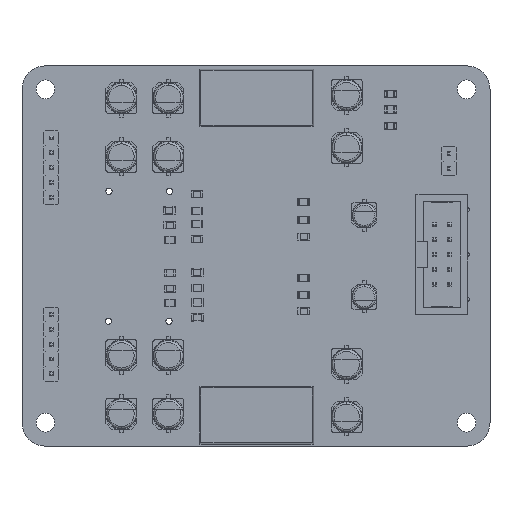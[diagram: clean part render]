
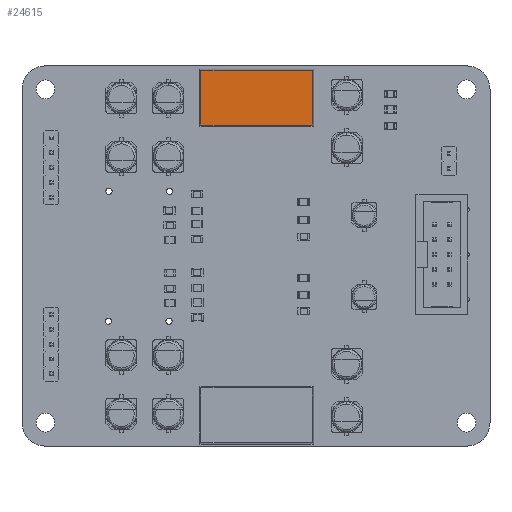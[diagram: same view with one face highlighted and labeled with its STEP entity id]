
A CAD part, top view. The second image highlights one B-rep face of the part: STEP entity #24615.
In plain terms, the highlighted planar face has unit normal (0, 0, 1) as drawn and (0, -1, 0) by its records, which use the part's own axes.
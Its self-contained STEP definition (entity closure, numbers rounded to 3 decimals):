
#23976 = PLANE('',#23977);
#23977 = AXIS2_PLACEMENT_3D('',#23978,#23979,#23980);
#23978 = CARTESIAN_POINT('',(11.052,0.,-4.9));
#23979 = DIRECTION('',(0.,-0.017,-1.));
#23980 = DIRECTION('',(-1.,0.,0.));
#24004 = PLANE('',#24005);
#24005 = AXIS2_PLACEMENT_3D('',#24006,#24007,#24008);
#24006 = CARTESIAN_POINT('',(-9.75,0.,-6.202));
#24007 = DIRECTION('',(-1.,-0.017,0.));
#24008 = DIRECTION('',(0.,0.,1.));
#24032 = PLANE('',#24033);
#24033 = AXIS2_PLACEMENT_3D('',#24034,#24035,#24036);
#24034 = CARTESIAN_POINT('',(-11.052,0.,4.9));
#24035 = DIRECTION('',(0.,-0.017,1.));
#24036 = DIRECTION('',(1.,0.,0.));
#24208 = VERTEX_POINT('',#24209);
#24209 = CARTESIAN_POINT('',(9.532,-12.5,-4.682));
#24223 = PLANE('',#24224);
#24224 = AXIS2_PLACEMENT_3D('',#24225,#24226,#24227);
#24225 = CARTESIAN_POINT('',(9.75,0.,6.202));
#24226 = DIRECTION('',(1.,-0.017,0.));
#24227 = DIRECTION('',(0.,0.,-1.));
#24235 = EDGE_CURVE('',#24236,#24208,#24238,.T.);
#24236 = VERTEX_POINT('',#24237);
#24237 = CARTESIAN_POINT('',(-9.532,-12.5,-4.682));
#24238 = SURFACE_CURVE('',#24239,(#24243,#24250),.PCURVE_S1.);
#24239 = LINE('',#24240,#24241);
#24240 = CARTESIAN_POINT('',(-9.532,-12.5,-4.682));
#24241 = VECTOR('',#24242,1.);
#24242 = DIRECTION('',(1.,0.,0.));
#24243 = PCURVE('',#23976,#24244);
#24244 = DEFINITIONAL_REPRESENTATION('',(#24245),#24249);
#24245 = LINE('',#24246,#24247);
#24246 = CARTESIAN_POINT('',(20.584,-12.502));
#24247 = VECTOR('',#24248,1.);
#24248 = DIRECTION('',(-1.,0.));
#24249 = ( GEOMETRIC_REPRESENTATION_CONTEXT(2) 
PARAMETRIC_REPRESENTATION_CONTEXT() REPRESENTATION_CONTEXT('2D SPACE',''
  ) );
#24250 = PCURVE('',#24251,#24256);
#24251 = PLANE('',#24252);
#24252 = AXIS2_PLACEMENT_3D('',#24253,#24254,#24255);
#24253 = CARTESIAN_POINT('',(0.,-12.5,0.));
#24254 = DIRECTION('',(0.,1.,0.));
#24255 = DIRECTION('',(1.,0.,0.));
#24256 = DEFINITIONAL_REPRESENTATION('',(#24257),#24261);
#24257 = LINE('',#24258,#24259);
#24258 = CARTESIAN_POINT('',(-9.532,4.682));
#24259 = VECTOR('',#24260,1.);
#24260 = DIRECTION('',(1.,0.));
#24261 = ( GEOMETRIC_REPRESENTATION_CONTEXT(2) 
PARAMETRIC_REPRESENTATION_CONTEXT() REPRESENTATION_CONTEXT('2D SPACE',''
  ) );
#24422 = VERTEX_POINT('',#24423);
#24423 = CARTESIAN_POINT('',(-9.532,-12.5,4.682));
#24444 = EDGE_CURVE('',#24445,#24422,#24447,.T.);
#24445 = VERTEX_POINT('',#24446);
#24446 = CARTESIAN_POINT('',(9.532,-12.5,4.682));
#24447 = SURFACE_CURVE('',#24448,(#24452,#24459),.PCURVE_S1.);
#24448 = LINE('',#24449,#24450);
#24449 = CARTESIAN_POINT('',(9.532,-12.5,4.682));
#24450 = VECTOR('',#24451,1.);
#24451 = DIRECTION('',(-1.,0.,0.));
#24452 = PCURVE('',#24032,#24453);
#24453 = DEFINITIONAL_REPRESENTATION('',(#24454),#24458);
#24454 = LINE('',#24455,#24456);
#24455 = CARTESIAN_POINT('',(20.584,-12.502));
#24456 = VECTOR('',#24457,1.);
#24457 = DIRECTION('',(-1.,0.));
#24458 = ( GEOMETRIC_REPRESENTATION_CONTEXT(2) 
PARAMETRIC_REPRESENTATION_CONTEXT() REPRESENTATION_CONTEXT('2D SPACE',''
  ) );
#24459 = PCURVE('',#24251,#24460);
#24460 = DEFINITIONAL_REPRESENTATION('',(#24461),#24465);
#24461 = LINE('',#24462,#24463);
#24462 = CARTESIAN_POINT('',(9.532,-4.682));
#24463 = VECTOR('',#24464,1.);
#24464 = DIRECTION('',(-1.,0.));
#24465 = ( GEOMETRIC_REPRESENTATION_CONTEXT(2) 
PARAMETRIC_REPRESENTATION_CONTEXT() REPRESENTATION_CONTEXT('2D SPACE',''
  ) );
#24594 = EDGE_CURVE('',#24208,#24445,#24595,.T.);
#24595 = SURFACE_CURVE('',#24596,(#24600,#24607),.PCURVE_S1.);
#24596 = LINE('',#24597,#24598);
#24597 = CARTESIAN_POINT('',(9.532,-12.5,-4.682));
#24598 = VECTOR('',#24599,1.);
#24599 = DIRECTION('',(0.,0.,1.));
#24600 = PCURVE('',#24223,#24601);
#24601 = DEFINITIONAL_REPRESENTATION('',(#24602),#24606);
#24602 = LINE('',#24603,#24604);
#24603 = CARTESIAN_POINT('',(10.884,-12.502));
#24604 = VECTOR('',#24605,1.);
#24605 = DIRECTION('',(-1.,0.));
#24606 = ( GEOMETRIC_REPRESENTATION_CONTEXT(2) 
PARAMETRIC_REPRESENTATION_CONTEXT() REPRESENTATION_CONTEXT('2D SPACE',''
  ) );
#24607 = PCURVE('',#24251,#24608);
#24608 = DEFINITIONAL_REPRESENTATION('',(#24609),#24613);
#24609 = LINE('',#24610,#24611);
#24610 = CARTESIAN_POINT('',(9.532,4.682));
#24611 = VECTOR('',#24612,1.);
#24612 = DIRECTION('',(0.,-1.));
#24613 = ( GEOMETRIC_REPRESENTATION_CONTEXT(2) 
PARAMETRIC_REPRESENTATION_CONTEXT() REPRESENTATION_CONTEXT('2D SPACE',''
  ) );
#24615 = ADVANCED_FACE('',(#24616),#24251,.F.);
#24616 = FACE_BOUND('',#24617,.F.);
#24617 = EDGE_LOOP('',(#24618,#24639,#24640,#24641));
#24618 = ORIENTED_EDGE('',*,*,#24619,.F.);
#24619 = EDGE_CURVE('',#24422,#24236,#24620,.T.);
#24620 = SURFACE_CURVE('',#24621,(#24625,#24632),.PCURVE_S1.);
#24621 = LINE('',#24622,#24623);
#24622 = CARTESIAN_POINT('',(-9.532,-12.5,4.682));
#24623 = VECTOR('',#24624,1.);
#24624 = DIRECTION('',(0.,0.,-1.));
#24625 = PCURVE('',#24251,#24626);
#24626 = DEFINITIONAL_REPRESENTATION('',(#24627),#24631);
#24627 = LINE('',#24628,#24629);
#24628 = CARTESIAN_POINT('',(-9.532,-4.682));
#24629 = VECTOR('',#24630,1.);
#24630 = DIRECTION('',(0.,1.));
#24631 = ( GEOMETRIC_REPRESENTATION_CONTEXT(2) 
PARAMETRIC_REPRESENTATION_CONTEXT() REPRESENTATION_CONTEXT('2D SPACE',''
  ) );
#24632 = PCURVE('',#24004,#24633);
#24633 = DEFINITIONAL_REPRESENTATION('',(#24634),#24638);
#24634 = LINE('',#24635,#24636);
#24635 = CARTESIAN_POINT('',(10.884,-12.502));
#24636 = VECTOR('',#24637,1.);
#24637 = DIRECTION('',(-1.,0.));
#24638 = ( GEOMETRIC_REPRESENTATION_CONTEXT(2) 
PARAMETRIC_REPRESENTATION_CONTEXT() REPRESENTATION_CONTEXT('2D SPACE',''
  ) );
#24639 = ORIENTED_EDGE('',*,*,#24444,.F.);
#24640 = ORIENTED_EDGE('',*,*,#24594,.F.);
#24641 = ORIENTED_EDGE('',*,*,#24235,.F.);
